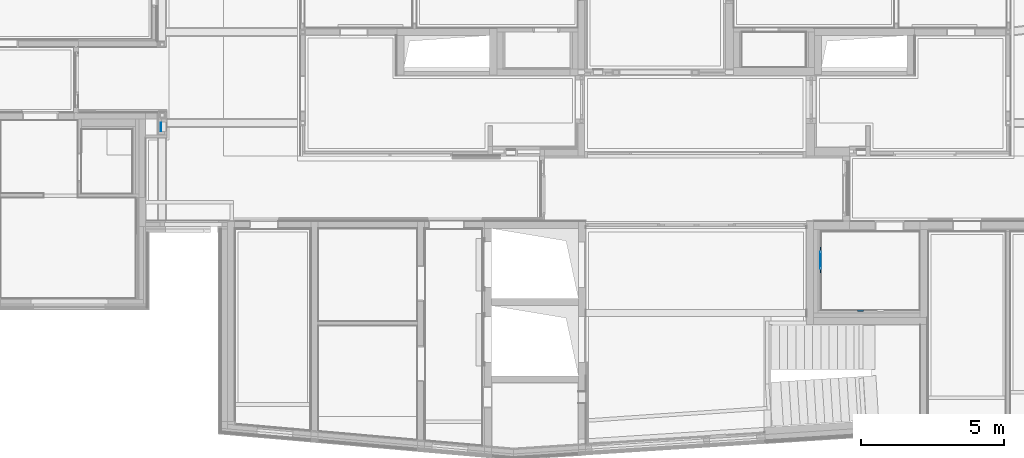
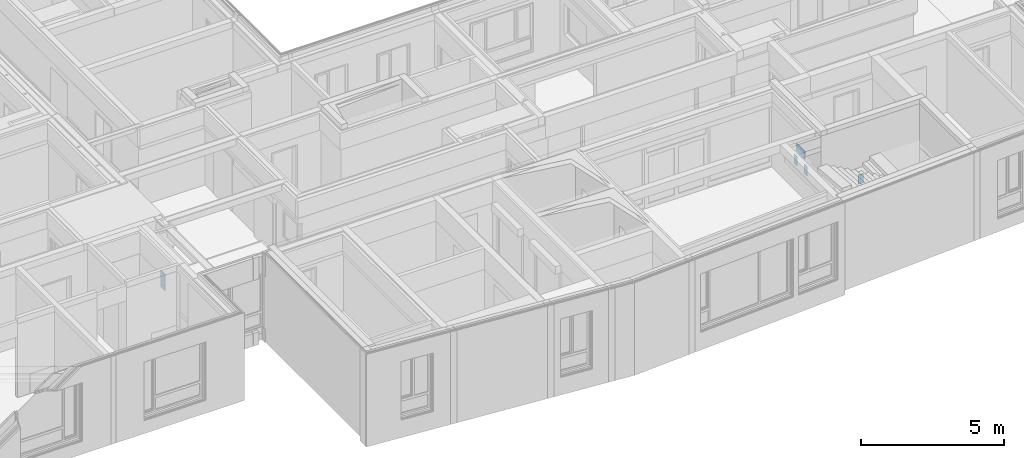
# One storey, part 148 of 222: 5 walls.
"""IFC4 building model written with IfcOpenShell, lengths in metres."""

import ifcopenshell
import ifcopenshell.guid

model = None  # the IFC model being written
_history = None  # IfcOwnerHistory: only IFC2X3 demands one
_inside = {}  # id of a spatial element -> (the spatial element, [elements in it])
_under = {}  # id of a project, library or spatial element -> (it, [spatial elements below it])
_declared = {}  # id of a project -> (the project, [libraries it declares])
_typed = {}  # id of a type object -> (the type object, [elements of that type])
_made_of = {}  # id of a material, layer set ... -> (it, [elements and type objects made of it])


def new_model(schema):
    """Start an empty IFC model of exactly this schema.

    Asked for "IFC4X3", IfcOpenShell would pick the latest addendum, in which some entities
    have other attributes; the version numbers below select the first issue.
    IFC2X3 requires an IfcOwnerHistory on every rooted entity: one is made here for all.
    """
    global model, _history
    if schema == "IFC4X3":
        model = ifcopenshell.file(schema_version=(4, 3, 0, 0))
    else:
        model = ifcopenshell.file(schema=schema)
    _inside.clear()
    _under.clear()
    _declared.clear()
    _typed.clear()
    _made_of.clear()
    _history = None
    if model.schema == "IFC2X3":
        org = make("IfcOrganization", Name="unknown")
        user = make(
            "IfcPersonAndOrganization",
            ThePerson=make("IfcPerson", FamilyName="unknown"),
            TheOrganization=org,
        )
        app = make(
            "IfcApplication",
            ApplicationDeveloper=org,
            Version="unknown",
            ApplicationFullName="unknown",
            ApplicationIdentifier="unknown",
        )
        _history = make(
            "IfcOwnerHistory",
            OwningUser=user,
            OwningApplication=app,
            ChangeAction="ADDED",
            CreationDate=0,
        )
    return model


def make(cls, **values):
    """One entity of the class cls with the attributes given. An attribute that is None is left unset."""
    return model.create_entity(
        cls, **{name: value for name, value in values.items() if value is not None}
    )


def entity(cls, *values):
    """Any entity or typed value of the class cls, its attributes in the order of the schema. None: left unset."""
    e = model.create_entity(cls)
    for i, value in enumerate(values):
        if value is not None:
            e[i] = value
    return e


def rooted(cls, **values):
    """An entity with a GlobalId (a new one), such as an element, a storey or a relation."""
    return make(cls, GlobalId=ifcopenshell.guid.new(), OwnerHistory=_history, **values)


def si_unit(unit_type, name, prefix=None):
    """IfcSIUnit, for example si_unit("LENGTHUNIT", "METRE", prefix="MILLI")."""
    return make("IfcSIUnit", UnitType=unit_type, Prefix=prefix, Name=name)


def converted_unit(unit_type, name, factor, base, dimensions=None, offset=None):
    """IfcConversionBasedUnit, such as the inch: factor (a typed value) times the base unit."""
    return make(
        "IfcConversionBasedUnit"
        if offset is None
        else "IfcConversionBasedUnitWithOffset",
        ConversionOffset=offset,
        Dimensions=None
        if dimensions is None
        else entity("IfcDimensionalExponents", *dimensions),
        UnitType=unit_type,
        Name=name,
        ConversionFactor=make(
            "IfcMeasureWithUnit", ValueComponent=factor, UnitComponent=base
        ),
    )


def derived_unit(unit_type, elements):
    """IfcDerivedUnit: a product of units, each with its exponent."""
    return make(
        "IfcDerivedUnit",
        Elements=[
            make("IfcDerivedUnitElement", Unit=unit, Exponent=power)
            for unit, power in elements
        ],
        UnitType=unit_type,
    )


def assignment(units):
    """IfcUnitAssignment: the units of a project."""
    return None if units is None else make("IfcUnitAssignment", Units=units)


def point(xyz):
    """IfcCartesianPoint."""
    return None if xyz is None else make("IfcCartesianPoint", Coordinates=xyz)


def direction(xyz):
    """IfcDirection."""
    return None if xyz is None else make("IfcDirection", DirectionRatios=xyz)


def frame(location, z_axis=None, x_axis=None):
    """IfcAxis2Placement3D, a coordinate frame: its origin and axes. An axis left out is left unset."""
    return make(
        "IfcAxis2Placement3D",
        Location=point(location),
        Axis=direction(z_axis),
        RefDirection=direction(x_axis),
    )


def origin():
    """The frame at (0, 0, 0) with its axes left unset."""
    return frame((0.0, 0.0, 0.0))


def place(relative_to, where):
    """IfcLocalPlacement: puts the frame where relative to a parent placement (None: the world)."""
    return make(
        "IfcLocalPlacement", PlacementRelTo=relative_to, RelativePlacement=where
    )


def context(
    kind, dimensions, precision=None, world=None, true_north=None, identifier=None
):
    """IfcGeometricRepresentationContext, for example the 3D "Model" context."""
    return make(
        "IfcGeometricRepresentationContext",
        ContextIdentifier=identifier,
        ContextType=kind,
        CoordinateSpaceDimension=dimensions,
        Precision=precision,
        WorldCoordinateSystem=world,
        TrueNorth=true_north,
    )


def subcontext(parent, identifier, kind, view, scale=None):
    """IfcGeometricRepresentationSubContext, for example "Body" below "Model"."""
    return make(
        "IfcGeometricRepresentationSubContext",
        ContextIdentifier=identifier,
        ContextType=kind,
        ParentContext=parent,
        TargetScale=scale,
        TargetView=view,
    )


def project(units=None, contexts=None):
    """IfcProject with its units and contexts."""
    return rooted(
        "IfcProject",
        Name="project",
        RepresentationContexts=contexts,
        UnitsInContext=assignment(units),
    )


def spatial(cls, under=None, at=None, **own):
    """A site, building, storey or space (cls), placed at a placement, below another one or the project."""
    s = rooted(cls, ObjectPlacement=at, **own)
    if under is not None:
        _under.setdefault(under.id(), (under, []))[1].append(s)
    return s


def faces_of(points, faces, orient=None, outer=None):
    """IfcFace entities. A face is a list of loops; a loop is a list of indices into points, from 0.

    orient and outer hold one flag for each loop. By default every Orientation is true, the
    first loop of a face is its IfcFaceOuterBound and the others are IfcFaceBound.
    """
    made = []
    for i, loops in enumerate(faces):
        bounds = []
        for j, loop in enumerate(loops):
            is_outer = j == 0 if outer is None else outer[i][j]
            bounds.append(
                make(
                    "IfcFaceOuterBound" if is_outer else "IfcFaceBound",
                    Bound=make("IfcPolyLoop", Polygon=[points[k] for k in loop]),
                    Orientation=True if orient is None else orient[i][j],
                )
            )
        made.append(make("IfcFace", Bounds=bounds))
    return made


def faceted_brep(points, faces, orient=None, outer=None, voids=None):
    """IfcFacetedBrep: a solid bounded by flat faces; with voids (closed shells), ...WithVoids."""
    shared = [point(p) for p in points]
    hull = make("IfcClosedShell", CfsFaces=faces_of(shared, faces, orient, outer))
    if voids is None:
        return make("IfcFacetedBrep", Outer=hull)
    return make(
        "IfcFacetedBrepWithVoids",
        Outer=hull,
        Voids=[
            make(cls, CfsFaces=faces_of(shared, fs, o, b)) for cls, fs, o, b in voids
        ],
    )


def shape(context_of_items, identifier, shape_type, items):
    """IfcShapeRepresentation: the items that make up one representation, for example the "Body"."""
    return make(
        "IfcShapeRepresentation",
        ContextOfItems=context_of_items,
        RepresentationIdentifier=identifier,
        RepresentationType=shape_type,
        Items=items,
    )


def made_of(thing, what):
    """Note that an element or type object is made of a material, layer set ...; save() writes the relation."""
    if what is not None:
        _made_of.setdefault(what.id(), (what, []))[1].append(thing)
    return thing


def element(
    cls,
    number,
    at=None,
    inside=None,
    cuts=None,
    type_object=None,
    material=None,
    context=None,
    identifier="Body",
    shape_type=None,
    held_by="IfcProductDefinitionShape",
    body=None,
    shapes=None,
    **own,
):
    """One element of the class cls, such as IfcWall. Its Tag is "e" and its number.

    at: its placement. inside: the storey or other place that contains it. cuts: it is an
    opening in that element (IfcRelVoidsElement). A single representation is given by context,
    identifier, shape_type and body (its items); several are given by shapes. held_by: the class
    of the entity that holds the representations. save() writes the other relations.
    """
    e = rooted(cls, Tag="e%d" % number, ObjectPlacement=at, **own)
    if body is not None:
        shapes = [shape(context, identifier, shape_type, body)]
    if shapes is not None:
        e.Representation = make(held_by, Representations=shapes)
    if inside is not None:
        _inside.setdefault(inside.id(), (inside, []))[1].append(e)
    if cuts is not None:
        rooted(
            "IfcRelVoidsElement", RelatingBuildingElement=cuts, RelatedOpeningElement=e
        )
    if type_object is not None:
        _typed.setdefault(type_object.id(), (type_object, []))[1].append(e)
    return made_of(e, material)


def aggregate(whole, parts):
    """IfcRelAggregates: a whole, such as a stair, and the parts it consists of."""
    return rooted("IfcRelAggregates", RelatingObject=whole, RelatedObjects=parts)


def save(model, path):
    """Write the relations noted so far, then the file.

    IfcRelAggregates (storeys below a building ...), IfcRelContainedInSpatialStructure (elements
    in a storey), IfcRelDefinesByType, IfcRelAssociatesMaterial and IfcRelDeclares: one each for
    every whole, place, type object, material and project.
    """
    for whole, parts in _under.values():
        aggregate(whole, parts)
    for where, things in _inside.values():
        rooted(
            "IfcRelContainedInSpatialStructure",
            RelatedElements=things,
            RelatingStructure=where,
        )
    for kind, things in _typed.values():
        rooted("IfcRelDefinesByType", RelatedObjects=things, RelatingType=kind)
    for what, things in _made_of.values():
        rooted("IfcRelAssociatesMaterial", RelatedObjects=things, RelatingMaterial=what)
    for by, libraries in _declared.values():
        rooted("IfcRelDeclares", RelatingContext=by, RelatedDefinitions=libraries)
    model.write(path)


model = new_model("IFC4")

# Units and contexts
model_context = context("Model", 3, precision=1e-05, world=origin())
body_context = subcontext(model_context, "Body", "Model", "MODEL_VIEW")
ifc_project = project(units=[si_unit("LENGTHUNIT", "METRE"), si_unit("AREAUNIT", "SQUARE_METRE"), si_unit("VOLUMEUNIT", "CUBIC_METRE"), si_unit("MASSUNIT", "GRAM", prefix="KILO"), converted_unit("PLANEANGLEUNIT", "DEGREE", entity("IfcPlaneAngleMeasure", 0.0174532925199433), si_unit("PLANEANGLEUNIT", "RADIAN"), dimensions=[0, 0, 0, 0, 0, 0, 0]), derived_unit("THERMALTRANSMITTANCEUNIT", [(si_unit("POWERUNIT", "WATT"), 1), (si_unit("THERMODYNAMICTEMPERATUREUNIT", "KELVIN"), -1), (si_unit("LENGTHUNIT", "METRE"), -2)]), derived_unit("VOLUMETRICFLOWRATEUNIT", [(si_unit("LENGTHUNIT", "METRE"), 3), (converted_unit("TIMEUNIT", "hour", entity("IfcTimeMeasure", 3600.0), si_unit("TIMEUNIT", "SECOND"), dimensions=[0, 0, 1, 0, 0, 0, 0]), -1), (si_unit("LENGTHUNIT", "METRE"), -1)])], contexts=[model_context])

# Site, building, storey
site_placement = place(None, origin())
site = spatial("IfcSite", under=ifc_project, at=site_placement, Name="Psychiatrie Neubau Wunstorf", CompositionType="ELEMENT")
building_placement = place(site_placement, origin())
building = spatial("IfcBuilding", under=site, at=building_placement, Name="Neubau H2 Stationsgebäude", CompositionType="ELEMENT")
storey_placement = place(building_placement, frame((0.0, 0.0, 3.6)))
storey = spatial("IfcBuildingStorey", under=building, at=storey_placement, Name="H2 Ebene +1", CompositionType="ELEMENT", Elevation=3.6)

# Walls
wall_1_placement = place(storey_placement, frame((35.6895, 3.681697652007, 0.75)))
element("IfcWall", 1, at=wall_1_placement, inside=storey, Name="WV 1.1", context=body_context, shape_type="Brep", body=[
    faceted_brep([(0.025, 0.3, 0.0), (0.0, 0.3, 0.0), (0.0, 0.0, 0.0), (0.025, 0.0, 0.0), (0.0, 0.3, 0.7), (0.025, 0.3, 0.7), (0.025, 0.0, 0.7), (0.0, 0.0, 0.7)], [[[0, 1, 2, 3]], [[4, 5, 6, 7]], [[1, 0, 5, 4]], [[2, 1, 4, 7]], [[3, 2, 7, 6]], [[0, 3, 6, 5]]], orient=[[False], [False], [False], [False], [False], [False]]),
])
wall_2_placement = place(storey_placement, frame((60.0679718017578, -2.61349131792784, 0.58)))
element("IfcWall", 2, at=wall_2_placement, inside=storey, Name="WV 1.1", context=body_context, shape_type="Brep", body=[
    faceted_brep([(0.2, 0.0, 0.0), (0.2, 0.025, 0.0), (0.0, 0.025, 0.0), (0.0, 0.0, 0.0), (0.2, 0.025, 0.4), (0.2, 0.0, 0.4), (0.0, 0.0, 0.4), (0.0, 0.025, 0.4)], [[[0, 1, 2, 3]], [[4, 5, 6, 7]], [[1, 0, 5, 4]], [[2, 1, 4, 7]], [[3, 2, 7, 6]], [[0, 3, 6, 5]]], orient=[[False], [False], [False], [False], [False], [False]]),
])
wall_3_placement = place(storey_placement, frame((58.7530000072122, -0.579611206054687, 0.58)))
element("IfcWall", 3, at=wall_3_placement, inside=storey, Name="WV 1.1", context=body_context, shape_type="Brep", body=[
    faceted_brep([(0.025, 0.2, 0.0), (0.0, 0.2, 0.0), (0.0, 0.0, 0.0), (0.025, 0.0, 0.0), (0.0, 0.2, 0.4), (0.025, 0.2, 0.4), (0.025, 0.0, 0.4), (0.0, 0.0, 0.4)], [[[0, 1, 2, 3]], [[4, 5, 6, 7]], [[1, 0, 5, 4]], [[2, 1, 4, 7]], [[3, 2, 7, 6]], [[0, 3, 6, 5]]], orient=[[False], [False], [False], [False], [False], [False]]),
])
wall_4_placement = place(storey_placement, frame((58.7530000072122, -1.12961120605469, 1.2)))
element("IfcWall", 4, at=wall_4_placement, inside=storey, Name="WV 1.1", context=body_context, shape_type="Brep", body=[
    faceted_brep([(0.025, 0.6, 0.0), (0.0, 0.6, 0.0), (0.0, 0.0, 0.0), (0.025, 0.0, 0.0), (0.0, 0.6, 0.35), (0.025, 0.6, 0.35), (0.025, 0.0, 0.35), (0.0, 0.0, 0.35)], [[[0, 1, 2, 3]], [[4, 5, 6, 7]], [[1, 0, 5, 4]], [[2, 1, 4, 7]], [[3, 2, 7, 6]], [[0, 3, 6, 5]]], orient=[[False], [False], [False], [False], [False], [False]]),
])
wall_5_placement = place(storey_placement, frame((58.7530000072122, -1.27961120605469, 0.58)))
element("IfcWall", 5, at=wall_5_placement, inside=storey, Name="WV 1.1", context=body_context, shape_type="Brep", body=[
    faceted_brep([(0.025, 0.2, 0.0), (0.0, 0.2, 0.0), (0.0, 0.0, 0.0), (0.025, 0.0, 0.0), (0.0, 0.2, 0.4), (0.025, 0.2, 0.4), (0.025, 0.0, 0.4), (0.0, 0.0, 0.4)], [[[0, 1, 2, 3]], [[4, 5, 6, 7]], [[1, 0, 5, 4]], [[2, 1, 4, 7]], [[3, 2, 7, 6]], [[0, 3, 6, 5]]], orient=[[False], [False], [False], [False], [False], [False]]),
])

save(model, "model.ifc")
